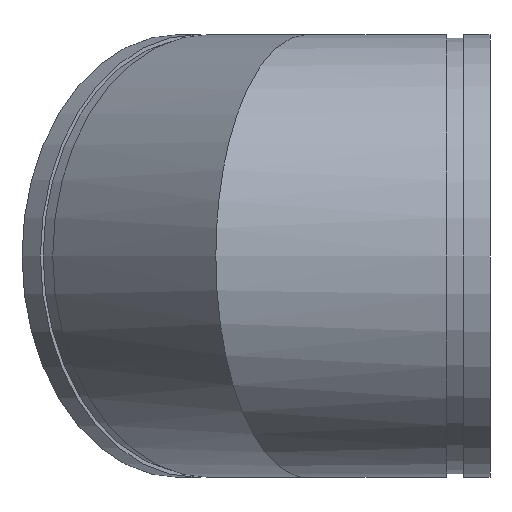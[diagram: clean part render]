
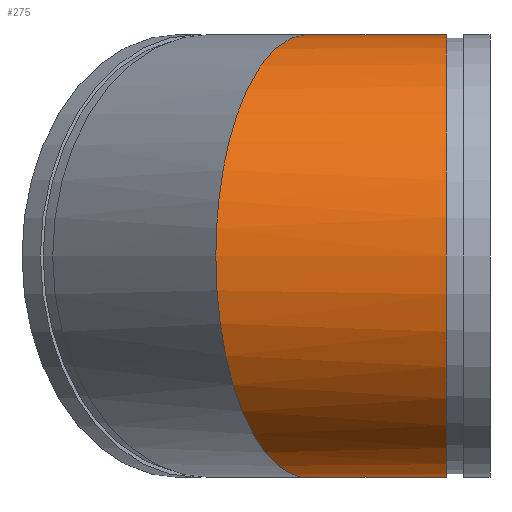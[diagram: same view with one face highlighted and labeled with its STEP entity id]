
A CAD part, left-side view. The second image highlights one B-rep face of the part: STEP entity #275.
In plain terms, the highlighted cylindrical face has radius 161.925 mm (diameter 323.85 mm), a full revolution.
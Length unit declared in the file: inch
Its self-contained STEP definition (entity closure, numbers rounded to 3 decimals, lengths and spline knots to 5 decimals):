
#48=ELLIPSE('',#329,6.90025,6.375);
#49=ELLIPSE('',#330,6.90025,6.375);
#50=ELLIPSE('',#331,6.90025,6.375);
#73=FACE_OUTER_BOUND('',#91,.T.);
#91=EDGE_LOOP('',(#225,#226,#227,#228,#229,#230));
#103=LINE('',#513,#111);
#111=VECTOR('',#416,6.375);
#117=CIRCLE('',#305,6.375);
#133=VERTEX_POINT('',#468);
#148=VERTEX_POINT('',#512);
#149=VERTEX_POINT('',#514);
#150=VERTEX_POINT('',#516);
#156=EDGE_CURVE('',#133,#133,#117,.T.);
#176=EDGE_CURVE('',#133,#148,#103,.T.);
#177=EDGE_CURVE('',#148,#149,#48,.T.);
#178=EDGE_CURVE('',#150,#149,#49,.T.);
#179=EDGE_CURVE('',#150,#148,#50,.T.);
#225=ORIENTED_EDGE('',*,*,#156,.T.);
#226=ORIENTED_EDGE('',*,*,#176,.T.);
#227=ORIENTED_EDGE('',*,*,#177,.T.);
#228=ORIENTED_EDGE('',*,*,#178,.F.);
#229=ORIENTED_EDGE('',*,*,#179,.T.);
#230=ORIENTED_EDGE('',*,*,#176,.F.);
#247=CYLINDRICAL_SURFACE('',#328,6.375);
#275=ADVANCED_FACE('',(#73),#247,.T.);
#305=AXIS2_PLACEMENT_3D('',#469,#363,#364);
#328=AXIS2_PLACEMENT_3D('',#511,#414,#415);
#329=AXIS2_PLACEMENT_3D('',#515,#417,#418);
#330=AXIS2_PLACEMENT_3D('',#517,#419,#420);
#331=AXIS2_PLACEMENT_3D('',#518,#421,#422);
#363=DIRECTION('center_axis',(0.,1.,0.));
#364=DIRECTION('ref_axis',(1.,0.,0.));
#414=DIRECTION('center_axis',(0.,-1.,0.));
#415=DIRECTION('ref_axis',(1.,0.,0.));
#416=DIRECTION('',(0.,1.,0.));
#417=DIRECTION('center_axis',(-0.383,-0.924,0.));
#418=DIRECTION('ref_axis',(0.924,-0.383,0.));
#419=DIRECTION('center_axis',(0.383,0.924,0.));
#420=DIRECTION('ref_axis',(0.924,-0.383,0.));
#421=DIRECTION('center_axis',(-0.383,-0.924,0.));
#422=DIRECTION('ref_axis',(0.924,-0.383,0.));
#468=CARTESIAN_POINT('',(-6.375,-4.,0.));
#469=CARTESIAN_POINT('Origin',(0.,-4.,0.));
#511=CARTESIAN_POINT('Origin',(0.,0.,0.));
#512=CARTESIAN_POINT('',(-6.375,2.64061,0.));
#513=CARTESIAN_POINT('',(-6.375,0.,0.));
#514=CARTESIAN_POINT('',(0.,0.,-6.375));
#515=CARTESIAN_POINT('Origin',(0.,0.,0.));
#516=CARTESIAN_POINT('',(0.,0.,6.375));
#517=CARTESIAN_POINT('Origin',(0.,0.,0.));
#518=CARTESIAN_POINT('Origin',(0.,0.,0.));
